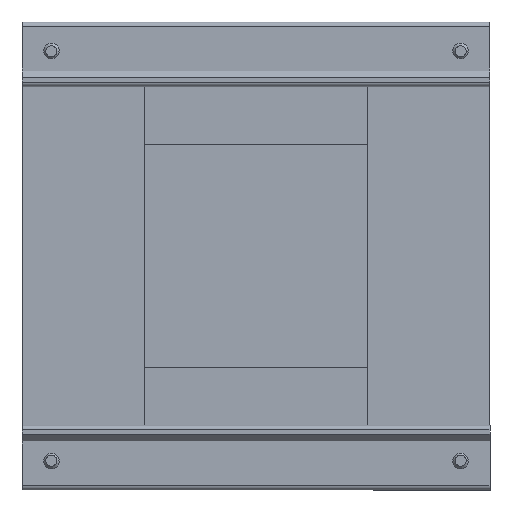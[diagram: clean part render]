
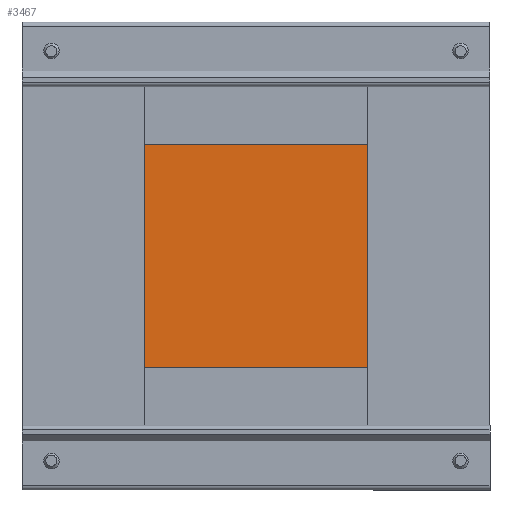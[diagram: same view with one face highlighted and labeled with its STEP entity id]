
A CAD part, front view. The second image highlights one B-rep face of the part: STEP entity #3467.
In plain terms, the highlighted planar face has unit normal (0, -1, 0) as drawn and (0, 0, -1) by its records, which use the part's own axes.
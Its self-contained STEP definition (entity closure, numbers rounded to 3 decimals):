
#38 = VERTEX_POINT ( 'NONE', #353 ) ;
#54 = VERTEX_POINT ( 'NONE', #423 ) ;
#70 = EDGE_CURVE ( 'NONE', #54, #38, #555, .T. ) ;
#353 = CARTESIAN_POINT ( 'NONE',  ( 25.08, 25.08, -2. ) ) ;
#417 = CARTESIAN_POINT ( 'NONE',  ( -25.08, 25.08, -2. ) ) ;
#423 = CARTESIAN_POINT ( 'NONE',  ( 25.08, -25.08, -2. ) ) ;
#503 = LINE ( 'NONE', #504, #505 ) ;
#504 = CARTESIAN_POINT ( 'NONE',  ( -25.08, 25.08, -2. ) ) ;
#505 = VECTOR ( 'NONE', #506, 1000. ) ;
#506 = DIRECTION ( 'NONE',  ( -1., 0., 0. ) ) ;
#555 = LINE ( 'NONE', #556, #557 ) ;
#556 = CARTESIAN_POINT ( 'NONE',  ( 25.08, 25.08, -2. ) ) ;
#557 = VECTOR ( 'NONE', #558, 1000. ) ;
#558 = DIRECTION ( 'NONE',  ( 0., 1., 0. ) ) ;
#1140 = LINE ( 'NONE', #1141, #1142 ) ;
#1141 = CARTESIAN_POINT ( 'NONE',  ( -25.08, -25.08, -2. ) ) ;
#1142 = VECTOR ( 'NONE', #1143, 1000. ) ;
#1143 = DIRECTION ( 'NONE',  ( 1., 0., 0. ) ) ;
#1203 = VERTEX_POINT ( 'NONE', #1975 ) ;
#1391 = FACE_OUTER_BOUND ( 'NONE', #3438, .T. ) ;
#1392 = PLANE ( 'NONE',  #1396 ) ;
#1396 = AXIS2_PLACEMENT_3D ( 'NONE', #1397, #1398, #1399 ) ;
#1397 = CARTESIAN_POINT ( 'NONE',  ( 25.08, -25.08, -2. ) ) ;
#1398 = DIRECTION ( 'NONE',  ( 0., 0., 1. ) ) ;
#1399 = DIRECTION ( 'NONE',  ( 1., 0., 0. ) ) ;
#1975 = CARTESIAN_POINT ( 'NONE',  ( -25.08, -25.08, -2. ) ) ;
#2173 = LINE ( 'NONE', #2174, #2175 ) ;
#2174 = CARTESIAN_POINT ( 'NONE',  ( -25.08, 25.08, -2. ) ) ;
#2175 = VECTOR ( 'NONE', #2176, 1000. ) ;
#2176 = DIRECTION ( 'NONE',  ( 0., -1., 0. ) ) ;
#3009 = VERTEX_POINT ( 'NONE', #417 ) ;
#3036 = EDGE_CURVE ( 'NONE', #38, #3009, #503, .T. ) ;
#3292 = ORIENTED_EDGE ( 'NONE', *, *, #3441, .F. ) ;
#3357 = ORIENTED_EDGE ( 'NONE', *, *, #70, .F. ) ;
#3438 = EDGE_LOOP ( 'NONE', ( #3357, #3292, #3622, #3599 ) ) ;
#3441 = EDGE_CURVE ( 'NONE', #1203, #54, #1140, .T. ) ;
#3467 = ADVANCED_FACE ( 'NONE', ( #1391 ), #1392, .F. ) ;
#3599 = ORIENTED_EDGE ( 'NONE', *, *, #3036, .F. ) ;
#3622 = ORIENTED_EDGE ( 'NONE', *, *, #3712, .F. ) ;
#3712 = EDGE_CURVE ( 'NONE', #3009, #1203, #2173, .T. ) ;
